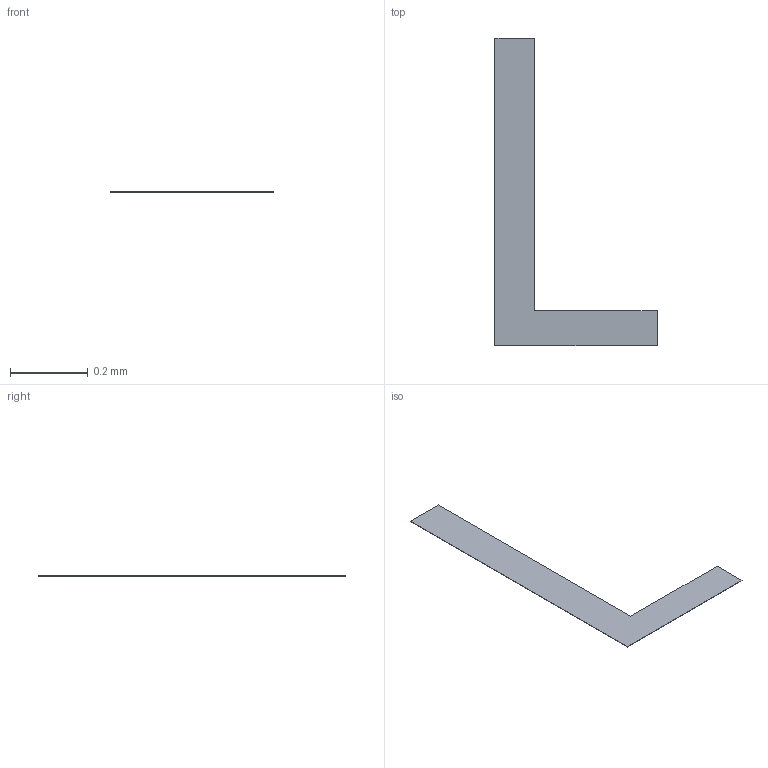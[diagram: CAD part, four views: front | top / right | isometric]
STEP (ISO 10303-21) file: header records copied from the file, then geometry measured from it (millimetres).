
FILE_DESCRIPTION(/* description */ ('STEP AP242 Edition 2','CAx-IF Rec.Pracs.---Representation and Presentation of Product Manufacturing Information (PMI)---4.0---2014-10-13','CAx-IF Rec.Pracs.---3D Tessellated Geometry---0.4---2014-09-14','2;1','CAx-IF Rec.Pracs.---User Defined Attributes---1.5---2016-08-15'),/* implementation_level */ '2;1');
FILE_NAME(/* name */ 'Assembly 1 - I2CLCD16X2~MODULE-TH_LCM1602K~nxQB (10)',/* time_stamp */ '2026-04-02T09:55:14Z',/* author */ (''),/* organization */ (''),/* preprocessor_version */ 'ST-DEVELOPER v20',/* originating_system */ 'ONSHAPE BY PTC INC, 1.212',/* authorisation */ ' ');
FILE_SCHEMA (('AP242_MANAGED_MODEL_BASED_3D_ENGINEERING_MIM_LF { 1 0 10303 442 3 1 4 }'));
Length unit declared in the file: metre
Products named in the file (1): I2CLCD16X2~MODULE-TH_LCM1602K~nxQB
Bounding box: 0.42 x 0.79 x 0 mm (x, y, z)
Volume: 0 mm3; surface area: 0.2 mm2
Topology: 1 solids, 1 shells, 8 faces, 18 edges, 12 vertices
Faces by surface type: plane 8
Entity records: 301 total; most frequent: CARTESIAN_POINT 39, ORIENTED_EDGE 36, DIRECTION 36, EDGE_CURVE 18, LINE 18, VECTOR 18, VERTEX_POINT 12, PRESENTATION_STYLE_ASSIGNMENT 9
